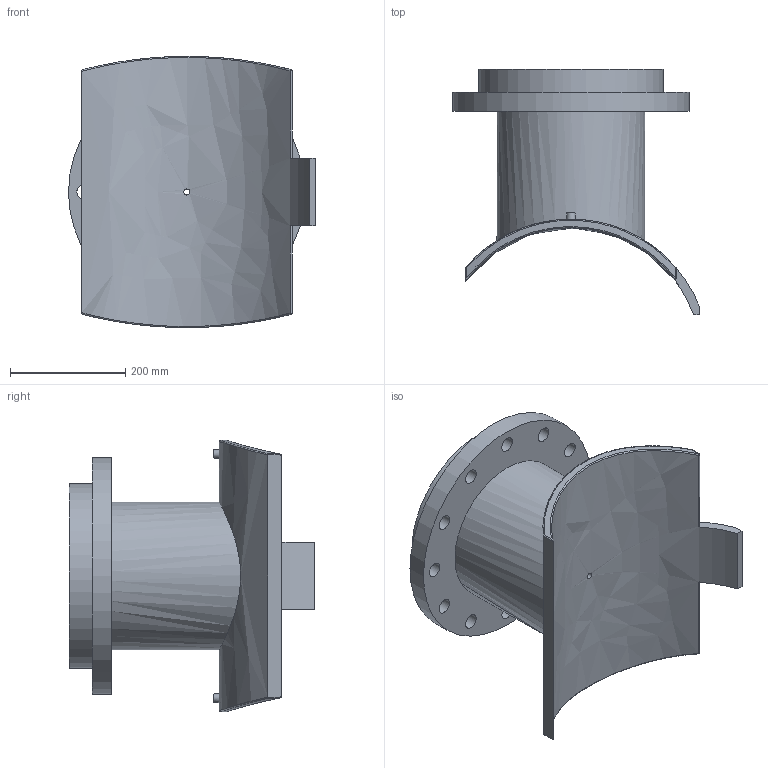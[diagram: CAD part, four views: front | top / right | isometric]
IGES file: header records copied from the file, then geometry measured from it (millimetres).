
Global section: file name: 495903450250T; native system: Autodesk Inventor 2019; preprocessor: unknown; author: KIM; date: 20240403.210342; units: millimetre
Bounding box: 427.75 x 425.66 x 469.95 mm (x, y, z)
Volume: 11766563.7 mm3; surface area: 1047868.1 mm2
Topology: 1 solids, 1 shells, 62 faces, 163 edges, 126 vertices
Faces by surface type: bspline 62
